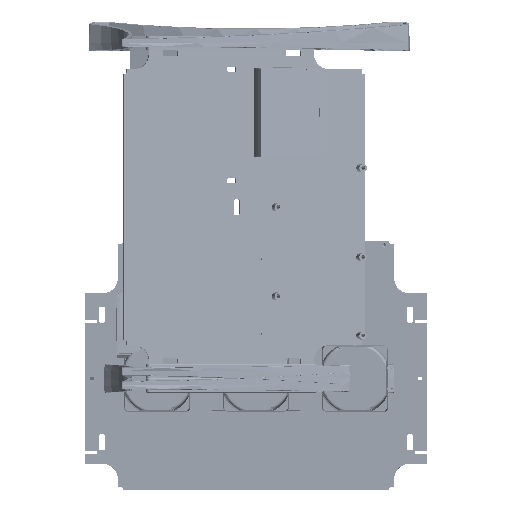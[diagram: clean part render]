
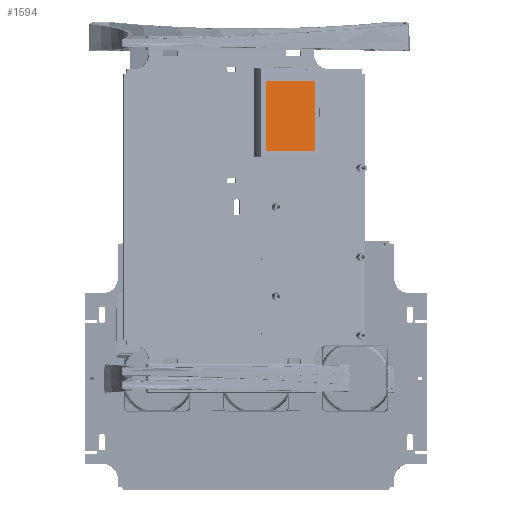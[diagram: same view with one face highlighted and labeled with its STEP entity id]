
A CAD part, top view. The second image highlights one B-rep face of the part: STEP entity #1594.
In plain terms, the highlighted planar face has unit normal (0.342, 0, 0.94) as drawn and (0, 0, 1) by its records, which use the part's own axes.
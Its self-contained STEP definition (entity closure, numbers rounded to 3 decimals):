
#1594 = ADVANCED_FACE( '', ( #5433 ), #5434, .T. );
#5433 = FACE_OUTER_BOUND( '', #11249, .T. );
#5434 = PLANE( '', #11250 );
#11249 = EDGE_LOOP( '', ( #26493, #26494, #26495, #26496 ) );
#11250 = AXIS2_PLACEMENT_3D( '', #26497, #26498, #26499 );
#26493 = ORIENTED_EDGE( '', *, *, #36447, .T. );
#26494 = ORIENTED_EDGE( '', *, *, #36465, .T. );
#26495 = ORIENTED_EDGE( '', *, *, #36467, .T. );
#26496 = ORIENTED_EDGE( '', *, *, #36468, .T. );
#26497 = CARTESIAN_POINT( '', ( -22.28, -18.36, 2.7 ) );
#26498 = DIRECTION( '', ( 0., 0., 1. ) );
#26499 = DIRECTION( '', ( 1., 0., 0. ) );
#36447 = EDGE_CURVE( '', #43341, #43339, #43342, .T. );
#36465 = EDGE_CURVE( '', #43339, #43367, #43369, .T. );
#36467 = EDGE_CURVE( '', #43367, #43370, #43372, .T. );
#36468 = EDGE_CURVE( '', #43370, #43341, #43373, .T. );
#43339 = VERTEX_POINT( '', #53723 );
#43341 = VERTEX_POINT( '', #53726 );
#43342 = LINE( '', #53727, #53728 );
#43367 = VERTEX_POINT( '', #53767 );
#43369 = LINE( '', #53770, #53771 );
#43370 = VERTEX_POINT( '', #53772 );
#43372 = LINE( '', #53775, #53776 );
#43373 = LINE( '', #53777, #53778 );
#53723 = CARTESIAN_POINT( '', ( -22.28, -18.36, 2.7 ) );
#53726 = CARTESIAN_POINT( '', ( -22.28, 18.36, 2.7 ) );
#53727 = CARTESIAN_POINT( '', ( -22.28, 18.36, 2.7 ) );
#53728 = VECTOR( '', #71267, 1000. );
#53767 = CARTESIAN_POINT( '', ( 26.68, -18.36, 2.7 ) );
#53770 = CARTESIAN_POINT( '', ( -22.28, -18.36, 2.7 ) );
#53771 = VECTOR( '', #71289, 1000. );
#53772 = CARTESIAN_POINT( '', ( 26.68, 18.36, 2.7 ) );
#53775 = CARTESIAN_POINT( '', ( 26.68, -18.36, 2.7 ) );
#53776 = VECTOR( '', #71291, 1000. );
#53777 = CARTESIAN_POINT( '', ( 26.68, 18.36, 2.7 ) );
#53778 = VECTOR( '', #71292, 1000. );
#71267 = DIRECTION( '', ( 0., -1., 0. ) );
#71289 = DIRECTION( '', ( 1., 0., 0. ) );
#71291 = DIRECTION( '', ( 0., 1., 0. ) );
#71292 = DIRECTION( '', ( -1., 0., 0. ) );
